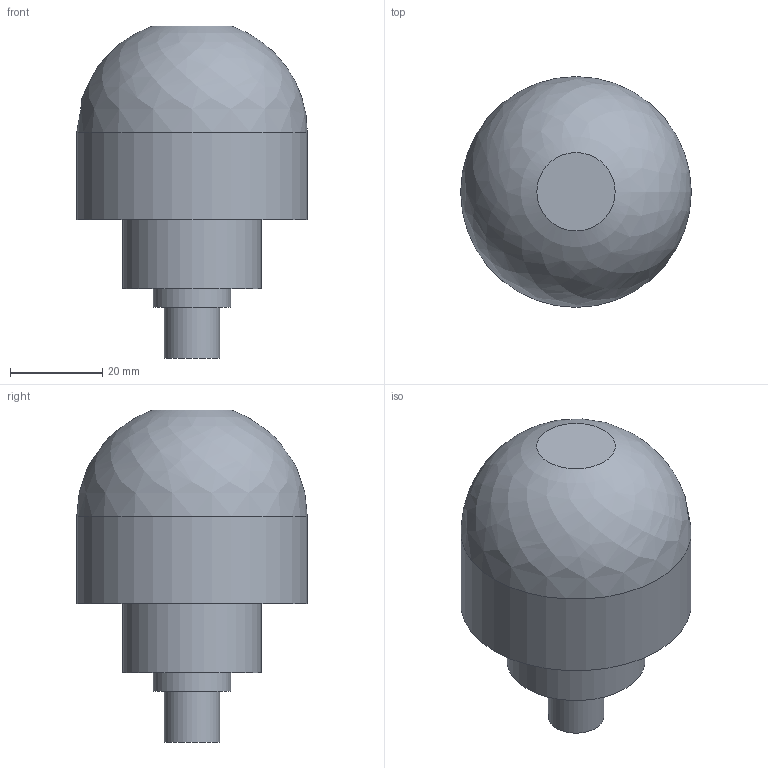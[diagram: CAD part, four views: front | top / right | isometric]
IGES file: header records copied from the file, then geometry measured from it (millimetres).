
Global section: file name: Filename.iges; native system: Open CASCADE 7.6; preprocessor: Open CASCADE IGES processor 7.6; date: 20240605.083256; units: millimetre
Bounding box: 50 x 50 x 72 mm (x, y, z)
Surface area: 35834.3 mm2 (no closed solid volume)
Topology: 0 solids, 0 shells, 44 faces, 136 edges, 100 vertices
Faces by surface type: plane 24, revolution 20
